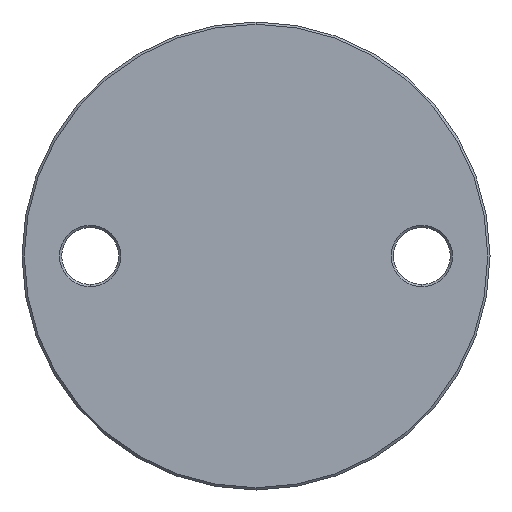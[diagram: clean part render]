
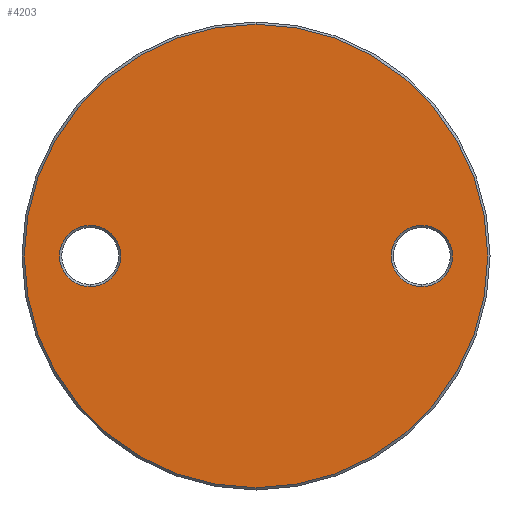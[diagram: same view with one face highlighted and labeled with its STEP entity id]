
A CAD part, front view. The second image highlights one B-rep face of the part: STEP entity #4203.
In plain terms, the highlighted planar face has unit normal (0, -1, 0).
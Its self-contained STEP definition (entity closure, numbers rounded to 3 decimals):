
#100 = VERTEX_POINT ( 'NONE', #3898 ) ;
#154 = CIRCLE ( 'NONE', #2665, 6.75 ) ;
#235 = AXIS2_PLACEMENT_3D ( 'NONE', #6165, #4659, #2970 ) ;
#241 = AXIS2_PLACEMENT_3D ( 'NONE', #3510, #6706, #4000 ) ;
#247 = DIRECTION ( 'NONE',  ( 0., 1., 0. ) ) ;
#303 = EDGE_CURVE ( 'NONE', #3186, #5665, #154, .T. ) ;
#546 = ORIENTED_EDGE ( 'NONE', *, *, #6389, .T. ) ;
#667 = EDGE_CURVE ( 'NONE', #5665, #3186, #5149, .T. ) ;
#742 = CARTESIAN_POINT ( 'NONE',  ( -36.5, -3., 6.75 ) ) ;
#775 = VERTEX_POINT ( 'NONE', #1446 ) ;
#820 = ORIENTED_EDGE ( 'NONE', *, *, #303, .T. ) ;
#1001 = CARTESIAN_POINT ( 'NONE',  ( -36.5, -3., 0. ) ) ;
#1005 = PLANE ( 'NONE',  #5061 ) ;
#1252 = CIRCLE ( 'NONE', #235, 6.75 ) ;
#1277 = AXIS2_PLACEMENT_3D ( 'NONE', #1379, #247, #2917 ) ;
#1379 = CARTESIAN_POINT ( 'NONE',  ( -36.5, -3., 0. ) ) ;
#1446 = CARTESIAN_POINT ( 'NONE',  ( 0., -3., 51. ) ) ;
#1487 = AXIS2_PLACEMENT_3D ( 'NONE', #6784, #4697, #1499 ) ;
#1499 = DIRECTION ( 'NONE',  ( 0., 0., -1. ) ) ;
#1507 = VERTEX_POINT ( 'NONE', #2644 ) ;
#1574 = DIRECTION ( 'NONE',  ( 0., -1., 0. ) ) ;
#2209 = EDGE_LOOP ( 'NONE', ( #6676, #2317 ) ) ;
#2317 = ORIENTED_EDGE ( 'NONE', *, *, #3993, .T. ) ;
#2520 = DIRECTION ( 'NONE',  ( 0., 0., -1. ) ) ;
#2644 = CARTESIAN_POINT ( 'NONE',  ( 36.5, -3., 6.75 ) ) ;
#2665 = AXIS2_PLACEMENT_3D ( 'NONE', #1001, #4702, #6840 ) ;
#2773 = EDGE_CURVE ( 'NONE', #6569, #1507, #6004, .T. ) ;
#2917 = DIRECTION ( 'NONE',  ( 0., 0., -1. ) ) ;
#2927 = FACE_BOUND ( 'NONE', #3899, .T. ) ;
#2970 = DIRECTION ( 'NONE',  ( 0., 0., -1. ) ) ;
#3069 = EDGE_LOOP ( 'NONE', ( #5765, #546 ) ) ;
#3186 = VERTEX_POINT ( 'NONE', #742 ) ;
#3510 = CARTESIAN_POINT ( 'NONE',  ( 0., -3., 0. ) ) ;
#3552 = DIRECTION ( 'NONE',  ( 0., 1., 0. ) ) ;
#3563 = AXIS2_PLACEMENT_3D ( 'NONE', #5703, #3552, #2520 ) ;
#3741 = CIRCLE ( 'NONE', #241, 51. ) ;
#3898 = CARTESIAN_POINT ( 'NONE',  ( 0., -3., -51. ) ) ;
#3899 = EDGE_LOOP ( 'NONE', ( #4299, #820 ) ) ;
#3965 = CIRCLE ( 'NONE', #1487, 51. ) ;
#3993 = EDGE_CURVE ( 'NONE', #1507, #6569, #1252, .T. ) ;
#4000 = DIRECTION ( 'NONE',  ( 0., 0., -1. ) ) ;
#4203 = ADVANCED_FACE ( 'NONE', ( #6153, #2927, #4345 ), #1005, .T. ) ;
#4299 = ORIENTED_EDGE ( 'NONE', *, *, #667, .T. ) ;
#4345 = FACE_OUTER_BOUND ( 'NONE', #3069, .T. ) ;
#4659 = DIRECTION ( 'NONE',  ( 0., 1., 0. ) ) ;
#4697 = DIRECTION ( 'NONE',  ( 0., -1., 0. ) ) ;
#4702 = DIRECTION ( 'NONE',  ( 0., 1., 0. ) ) ;
#4753 = DIRECTION ( 'NONE',  ( 0., 0., -1. ) ) ;
#5061 = AXIS2_PLACEMENT_3D ( 'NONE', #5262, #1574, #4753 ) ;
#5149 = CIRCLE ( 'NONE', #1277, 6.75 ) ;
#5175 = EDGE_CURVE ( 'NONE', #775, #100, #3741, .T. ) ;
#5262 = CARTESIAN_POINT ( 'NONE',  ( 0., -3., 51.5 ) ) ;
#5380 = CARTESIAN_POINT ( 'NONE',  ( 36.5, -3., -6.75 ) ) ;
#5665 = VERTEX_POINT ( 'NONE', #6069 ) ;
#5703 = CARTESIAN_POINT ( 'NONE',  ( 36.5, -3., 0. ) ) ;
#5765 = ORIENTED_EDGE ( 'NONE', *, *, #5175, .T. ) ;
#6004 = CIRCLE ( 'NONE', #3563, 6.75 ) ;
#6069 = CARTESIAN_POINT ( 'NONE',  ( -36.5, -3., -6.75 ) ) ;
#6153 = FACE_BOUND ( 'NONE', #2209, .T. ) ;
#6165 = CARTESIAN_POINT ( 'NONE',  ( 36.5, -3., 0. ) ) ;
#6389 = EDGE_CURVE ( 'NONE', #100, #775, #3965, .T. ) ;
#6569 = VERTEX_POINT ( 'NONE', #5380 ) ;
#6676 = ORIENTED_EDGE ( 'NONE', *, *, #2773, .T. ) ;
#6706 = DIRECTION ( 'NONE',  ( 0., -1., 0. ) ) ;
#6784 = CARTESIAN_POINT ( 'NONE',  ( 0., -3., 0. ) ) ;
#6840 = DIRECTION ( 'NONE',  ( 0., 0., -1. ) ) ;
